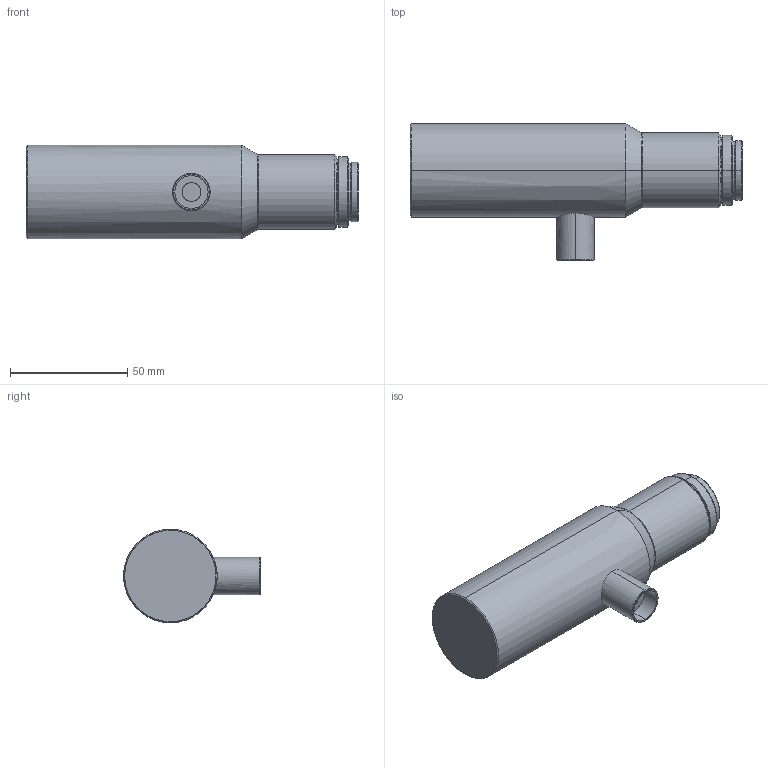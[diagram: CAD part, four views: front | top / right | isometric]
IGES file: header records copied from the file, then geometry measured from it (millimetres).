
Start section: SolidWorks IGES file using analytic representation for surfaces
Global section: file name: C:\Documents and Settings\Tsuji_vst\My Documents\図面\_3D\VS-TC4-220CO.IGS,1; native system: 5HSolidWorks 2012; preprocessor: SolidWorks 2012; author: Tsuji_vst; date: 130823.154214; units: millimetre
Bounding box: 141.8 x 58.5 x 40 mm (x, y, z)
Surface area: 20324.1 mm2 (no closed solid volume)
Topology: 0 solids, 0 shells, 47 faces, 958 edges, 958 vertices
Faces by surface type: revolution 38, bspline 9
